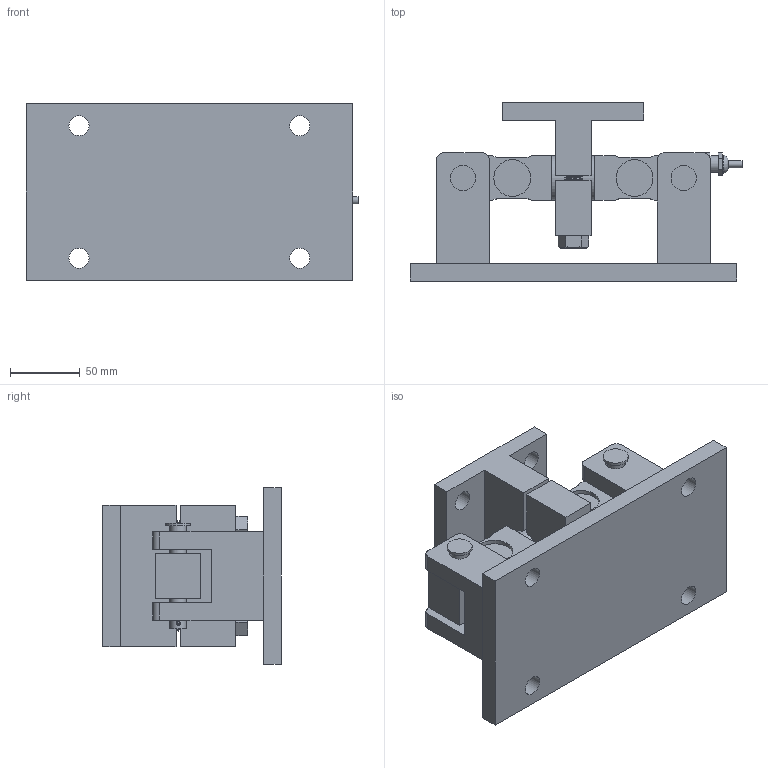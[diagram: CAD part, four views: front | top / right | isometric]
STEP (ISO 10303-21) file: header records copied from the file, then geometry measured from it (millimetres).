
FILE_DESCRIPTION(/* description */ (''),/* implementation_level */ '2;1');
FILE_NAME(/* name */ 'C:/Users/fardi/Dropbox/Work/Anyload/Load Cell Models/Product Catalog 3D/Weight Modules/102/102ESM2/102ESM2-(1-5)klb v3.step',/* time_stamp */ '2020-04-30T09:42:51-07:00',/* author */ (''),/* organization */ (''),/* preprocessor_version */ 'ST-DEVELOPER v18.1',/* originating_system */ 'Autodesk Translation Framework v9.2.0.1227',/* authorisation */ '');
FILE_SCHEMA (('AUTOMOTIVE_DESIGN { 1 0 10303 214 3 1 1 }'));
Length unit declared in the file: millimetre
Products named in the file (7): 102ESM2-(1-5)klb; Base; 102ES-(2.5-5)klb; Connector; Pins; Top; 91257A722
Assembly tree (7 placements, depth 3):
  102ESM2-(1-5)klb
    Base
    102ES-(2.5-5)klb
      Connector
    Pins
    Top
    91257A722  x2
Bounding box: 238.81 x 128.4 x 127 mm (x, y, z)
Volume: 1123449.7 mm3; surface area: 208477.1 mm2
Topology: 9 solids, 9 shells, 425 faces, 1102 edges, 722 vertices
Faces by surface type: cylinder 238, plane 157, cone 21, bspline 9
Full cylindrical faces by diameter (mm): 3 x2, 5.1 x1, 5.3 x1, 10.162 x30, 10.808 x42, 12 x4, 12.7 x80, 13 x1, 14.5 x14, 18 x2, 26.4 x4, 32.004 x1
Entity records: 22947 total; most frequent: CARTESIAN_POINT 14843, ORIENTED_EDGE 1756, DIRECTION 1453, EDGE_CURVE 878, VERTEX_POINT 575, AXIS2_PLACEMENT_3D 503, LINE 447, VECTOR 447
